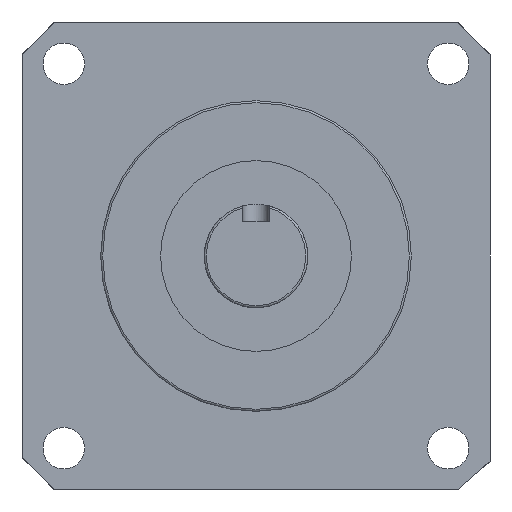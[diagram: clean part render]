
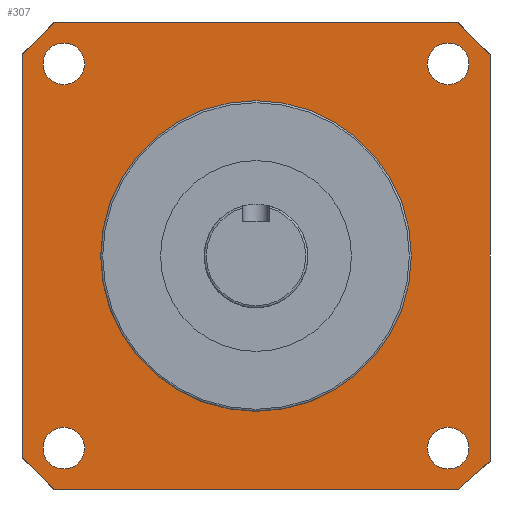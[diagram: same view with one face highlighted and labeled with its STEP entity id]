
A CAD part, front view. The second image highlights one B-rep face of the part: STEP entity #307.
In plain terms, the highlighted planar face has unit normal (0, -1, 0).
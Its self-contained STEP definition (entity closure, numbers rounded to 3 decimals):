
#307 = ADVANCED_FACE( '', ( #645, #646, #647, #648, #649, #650 ), #651, .T. );
#645 = FACE_BOUND( '', #1023, .T. );
#646 = FACE_BOUND( '', #1024, .T. );
#647 = FACE_OUTER_BOUND( '', #1025, .T. );
#648 = FACE_BOUND( '', #1026, .T. );
#649 = FACE_BOUND( '', #1027, .T. );
#650 = FACE_BOUND( '', #1028, .T. );
#651 = PLANE( '', #1029 );
#1023 = EDGE_LOOP( '', ( #1683 ) );
#1024 = EDGE_LOOP( '', ( #1684 ) );
#1025 = EDGE_LOOP( '', ( #1685, #1686, #1687, #1688, #1689, #1690, #1691, #1692 ) );
#1026 = EDGE_LOOP( '', ( #1693 ) );
#1027 = EDGE_LOOP( '', ( #1694 ) );
#1028 = EDGE_LOOP( '', ( #1695 ) );
#1029 = AXIS2_PLACEMENT_3D( '', #1696, #1697, #1698 );
#1683 = ORIENTED_EDGE( '', *, *, #1875, .T. );
#1684 = ORIENTED_EDGE( '', *, *, #1967, .T. );
#1685 = ORIENTED_EDGE( '', *, *, #2063, .T. );
#1686 = ORIENTED_EDGE( '', *, *, #2114, .T. );
#1687 = ORIENTED_EDGE( '', *, *, #2014, .T. );
#1688 = ORIENTED_EDGE( '', *, *, #1996, .T. );
#1689 = ORIENTED_EDGE( '', *, *, #2115, .T. );
#1690 = ORIENTED_EDGE( '', *, *, #2042, .F. );
#1691 = ORIENTED_EDGE( '', *, *, #1923, .T. );
#1692 = ORIENTED_EDGE( '', *, *, #2116, .F. );
#1693 = ORIENTED_EDGE( '', *, *, #2110, .F. );
#1694 = ORIENTED_EDGE( '', *, *, #2117, .T. );
#1695 = ORIENTED_EDGE( '', *, *, #2071, .T. );
#1696 = CARTESIAN_POINT( '', ( 28.704, -70., 28.675 ) );
#1697 = DIRECTION( '', ( 0., -1., 0. ) );
#1698 = DIRECTION( '', ( 0., 0., -1. ) );
#1875 = EDGE_CURVE( '', #2155, #2155, #2156, .T. );
#1923 = EDGE_CURVE( '', #2238, #2242, #2244, .T. );
#1967 = EDGE_CURVE( '', #2311, #2311, #2312, .T. );
#1996 = EDGE_CURVE( '', #2356, #2354, #2357, .T. );
#2014 = EDGE_CURVE( '', #2382, #2356, #2383, .T. );
#2042 = EDGE_CURVE( '', #2238, #2426, #2427, .T. );
#2063 = EDGE_CURVE( '', #2455, #2453, #2456, .T. );
#2071 = EDGE_CURVE( '', #2466, #2466, #2467, .T. );
#2110 = EDGE_CURVE( '', #2517, #2517, #2518, .T. );
#2114 = EDGE_CURVE( '', #2453, #2382, #2523, .T. );
#2115 = EDGE_CURVE( '', #2354, #2426, #2524, .T. );
#2116 = EDGE_CURVE( '', #2455, #2242, #2525, .T. );
#2117 = EDGE_CURVE( '', #2526, #2526, #2527, .T. );
#2155 = VERTEX_POINT( '', #2570 );
#2156 = CIRCLE( '', #2571, 2.55 );
#2238 = VERTEX_POINT( '', #2699 );
#2242 = VERTEX_POINT( '', #2705 );
#2244 = LINE( '', #2708, #2709 );
#2311 = VERTEX_POINT( '', #2888 );
#2312 = CIRCLE( '', #2889, 2.55 );
#2354 = VERTEX_POINT( '', #2951 );
#2356 = VERTEX_POINT( '', #2954 );
#2357 = LINE( '', #2955, #2956 );
#2382 = VERTEX_POINT( '', #2988 );
#2383 = LINE( '', #2989, #2990 );
#2426 = VERTEX_POINT( '', #3045 );
#2427 = LINE( '', #3046, #3047 );
#2453 = VERTEX_POINT( '', #3170 );
#2455 = VERTEX_POINT( '', #3173 );
#2456 = LINE( '', #3174, #3175 );
#2466 = VERTEX_POINT( '', #3188 );
#2467 = CIRCLE( '', #3189, 2.55 );
#2517 = VERTEX_POINT( '', #3250 );
#2518 = CIRCLE( '', #3251, 19.05 );
#2523 = LINE( '', #3256, #3257 );
#2524 = LINE( '', #3258, #3259 );
#2525 = LINE( '', #3260, #3261 );
#2526 = VERTEX_POINT( '', #3262 );
#2527 = CIRCLE( '', #3263, 2.55 );
#2570 = CARTESIAN_POINT( '', ( -21.018, -70., -23.596 ) );
#2571 = AXIS2_PLACEMENT_3D( '', #3305, #3306, #3307 );
#2699 = CARTESIAN_POINT( '', ( 24.704, -70., 28.675 ) );
#2705 = CARTESIAN_POINT( '', ( -24.696, -70., 28.675 ) );
#2708 = CARTESIAN_POINT( '', ( 28.704, -70., 28.675 ) );
#2709 = VECTOR( '', #3374, 1000. );
#2888 = CARTESIAN_POINT( '', ( 26.125, -70., 23.547 ) );
#2889 = AXIS2_PLACEMENT_3D( '', #3417, #3418, #3419 );
#2951 = CARTESIAN_POINT( '', ( 28.704, -70., -25.217 ) );
#2954 = CARTESIAN_POINT( '', ( 24.704, -70., -28.725 ) );
#2955 = CARTESIAN_POINT( '', ( 24.704, -70., -28.725 ) );
#2956 = VECTOR( '', #3452, 1000. );
#2988 = CARTESIAN_POINT( '', ( -24.696, -70., -28.725 ) );
#2989 = CARTESIAN_POINT( '', ( -28.696, -70., -28.725 ) );
#2990 = VECTOR( '', #3472, 1000. );
#3045 = CARTESIAN_POINT( '', ( 28.704, -70., 24.675 ) );
#3046 = CARTESIAN_POINT( '', ( 24.704, -70., 28.675 ) );
#3047 = VECTOR( '', #3506, 1000. );
#3170 = CARTESIAN_POINT( '', ( -28.696, -70., -24.725 ) );
#3173 = CARTESIAN_POINT( '', ( -28.696, -70., 24.675 ) );
#3174 = CARTESIAN_POINT( '', ( -28.696, -70., 28.675 ) );
#3175 = VECTOR( '', #3529, 1000. );
#3188 = CARTESIAN_POINT( '', ( 26.125, -70., -23.596 ) );
#3189 = AXIS2_PLACEMENT_3D( '', #3536, #3537, #3538 );
#3250 = CARTESIAN_POINT( '', ( 0.004, -70., -19.075 ) );
#3251 = AXIS2_PLACEMENT_3D( '', #3580, #3581, #3582 );
#3256 = CARTESIAN_POINT( '', ( -28.696, -70., -24.725 ) );
#3257 = VECTOR( '', #3586, 1000. );
#3258 = CARTESIAN_POINT( '', ( 28.704, -70., -28.725 ) );
#3259 = VECTOR( '', #3587, 1000. );
#3260 = CARTESIAN_POINT( '', ( -28.696, -70., 24.675 ) );
#3261 = VECTOR( '', #3588, 1000. );
#3262 = CARTESIAN_POINT( '', ( -21.018, -70., 23.547 ) );
#3263 = AXIS2_PLACEMENT_3D( '', #3589, #3590, #3591 );
#3305 = CARTESIAN_POINT( '', ( -23.568, -70., -23.596 ) );
#3306 = DIRECTION( '', ( 0., 1., 0. ) );
#3307 = DIRECTION( '', ( 1., 0., 0. ) );
#3374 = DIRECTION( '', ( -1., 0., 0. ) );
#3417 = CARTESIAN_POINT( '', ( 23.575, -70., 23.547 ) );
#3418 = DIRECTION( '', ( 0., 1., 0. ) );
#3419 = DIRECTION( '', ( 1., 0., 0. ) );
#3452 = DIRECTION( '', ( 0.752, 0., 0.659 ) );
#3472 = DIRECTION( '', ( 1., 0., 0. ) );
#3506 = DIRECTION( '', ( 0.707, 0., -0.707 ) );
#3529 = DIRECTION( '', ( 0., 0., -1. ) );
#3536 = CARTESIAN_POINT( '', ( 23.575, -70., -23.596 ) );
#3537 = DIRECTION( '', ( 0., 1., 0. ) );
#3538 = DIRECTION( '', ( 1., 0., 0. ) );
#3580 = CARTESIAN_POINT( '', ( 0.004, -70., -0.025 ) );
#3581 = DIRECTION( '', ( 0., -1., 0. ) );
#3582 = DIRECTION( '', ( 0., 0., -1. ) );
#3586 = DIRECTION( '', ( 0.707, 0., -0.707 ) );
#3587 = DIRECTION( '', ( 0., 0., 1. ) );
#3588 = DIRECTION( '', ( 0.707, 0., 0.707 ) );
#3589 = CARTESIAN_POINT( '', ( -23.568, -70., 23.547 ) );
#3590 = DIRECTION( '', ( 0., 1., 0. ) );
#3591 = DIRECTION( '', ( 1., 0., 0. ) );
